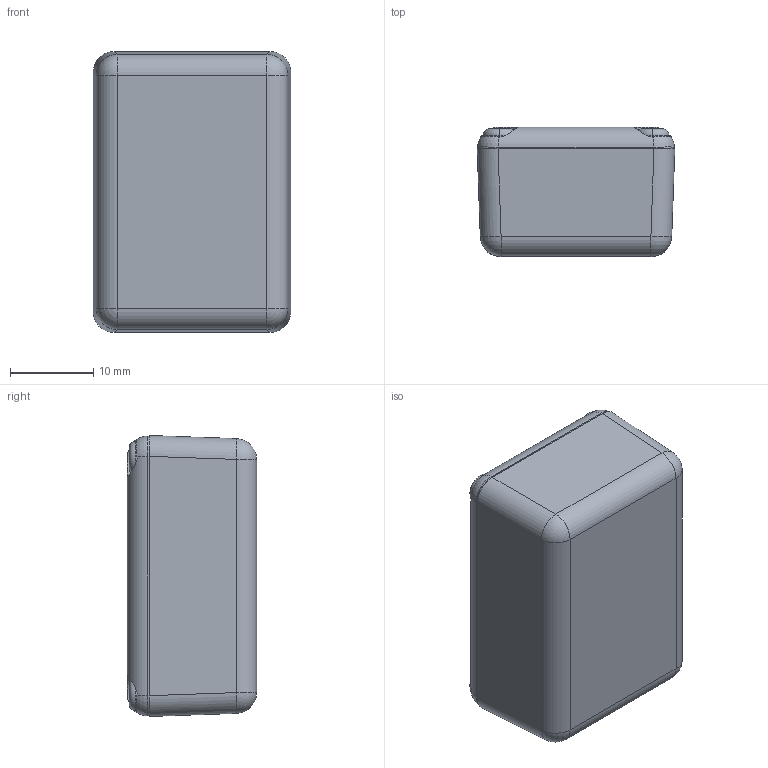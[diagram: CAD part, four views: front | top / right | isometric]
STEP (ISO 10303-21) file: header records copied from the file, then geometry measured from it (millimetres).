
FILE_DESCRIPTION (( 'STEP AP214' ), '1' );
FILE_NAME ('BMC 205.STEP', '2021-03-25T18:12:44', ( '' ), ( '' ), 'SwSTEP 2.0', 'SolidWorks 2016', '' );
FILE_SCHEMA (( 'AUTOMOTIVE_DESIGN' ));
Length unit declared in the file: millimetre
Products named in the file (4): BMC 205 Bottom; BMC Screw; BMC 205; BMC 205 Top
Assembly tree (6 placements, depth 2):
  BMC 205
    BMC 205 Bottom
    BMC 205 Top
    BMC Screw  x4
Bounding box: 23.7 x 15.5 x 33.7 mm (x, y, z)
Volume: 4640.3 mm3; surface area: 6773.4 mm2
Topology: 6 solids, 6 shells, 870 faces, 2290 edges, 1512 vertices
Faces by surface type: plane 430, bspline 327, cylinder 56, cone 41, sphere 8, torus 8
Entity records: 40085 total; most frequent: CARTESIAN_POINT 22329, ORIENTED_EDGE 4224, DIRECTION 2519, EDGE_CURVE 2112, VERTEX_POINT 1398, VECTOR 1271, LINE 1271, EDGE_LOOP 878
